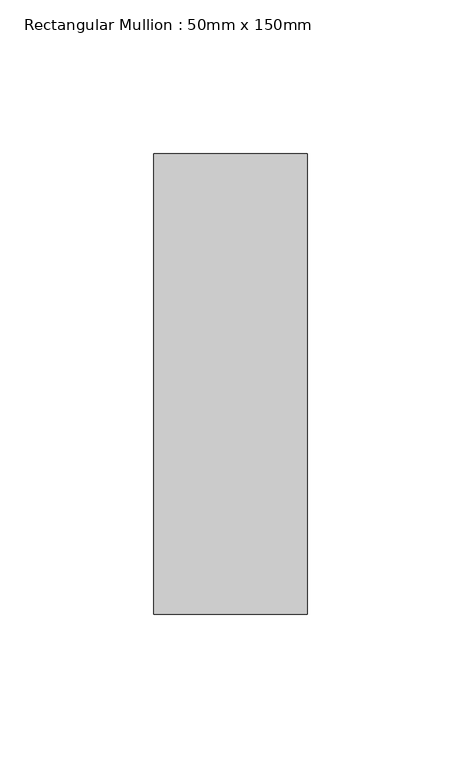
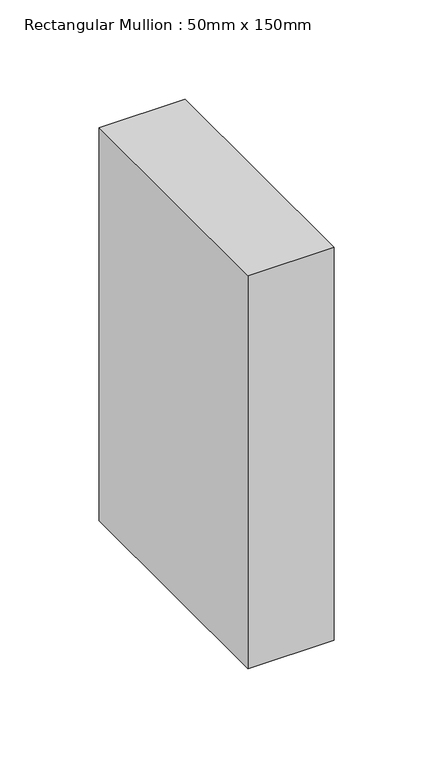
"""IFC4 building model written with IfcOpenShell, lengths in millimetres: member geometry, Rectangular Mullion : 50mm x 150mm."""

from ifc_helpers import new_model, si_unit, frame, origin, place, context, project, spatial, polyline, outline, extrude, source, transform, mapped, element, save


def rectangular_mullion_50mm_x_150mm_c3a19aad(model_context):
    return source(origin(), model_context, "Body", "SweptSolid", [
        extrude(outline(polyline([(25.0, 75.0), (25.0, -75.0), (-25.0, -75.0), (-25.0, 75.0), (25.0, 75.0)])), frame((0.0, 0.0, -241.7574195), z_axis=(0.0, 0.0, 1.0), x_axis=(1.0, 0.0, 0.0)), (0.0, 0.0, 1.0), 241.7574195),
    ])


if __name__ == "__main__":
    model = new_model("IFC4")
    model_context = context("Model", 3, world=origin())
    ifc_project = project(units=[si_unit("LENGTHUNIT", "METRE", prefix="MILLI")], contexts=[model_context])
    site = spatial("IfcSite", under=ifc_project)
    building = spatial("IfcBuilding", under=site)
    placement = place(None, origin())
    rectangular_mullion_50mm_x_150mm_shape = rectangular_mullion_50mm_x_150mm_c3a19aad(model_context)
    element("IfcMember", 1, ObjectType="Rectangular Mullion : 50mm x 150mm", at=placement, inside=building, context=model_context, shape_type="MappedRepresentation", body=[
        mapped(rectangular_mullion_50mm_x_150mm_shape, transform((0.0, 0.0, 0.0), x_axis=(1.0, 0.0, 0.0), y_axis=(0.0, 1.0, 0.0), z_axis=(0.0, 0.0, 1.0))),
    ])
    save(model, "model.ifc")
